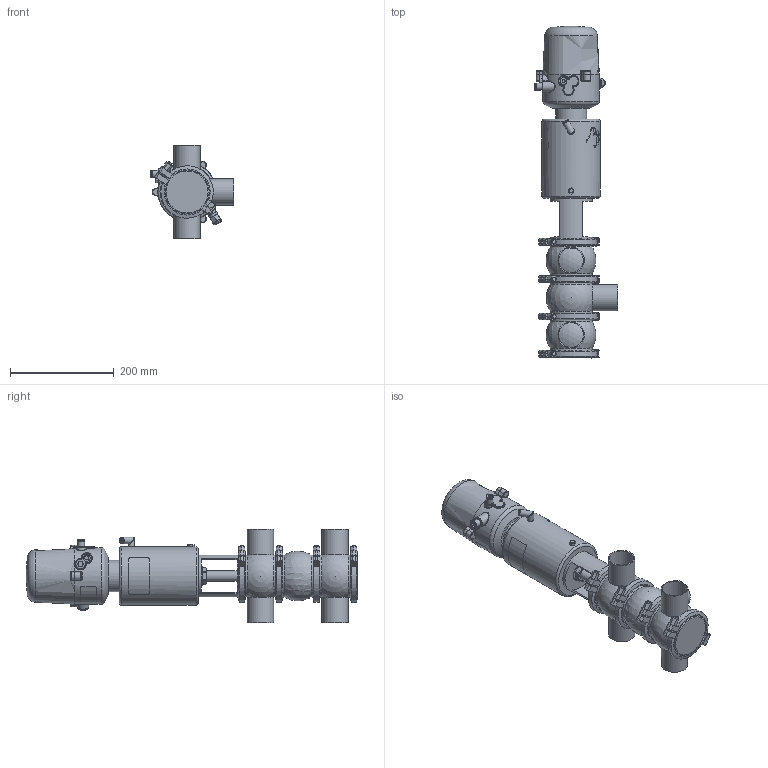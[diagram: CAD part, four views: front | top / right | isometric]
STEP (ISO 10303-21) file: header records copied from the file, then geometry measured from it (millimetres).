
FILE_DESCRIPTION (( 'STEP AP214' ), '1' );
FILE_NAME ('INNOVA L W W OD 2 T2 AS NC & C-TOP S_10.241.16.0064.STEP', '2024-08-06T12:22:22', ( '' ), ( '' ), 'SwSTEP 2.0', 'SolidWorks 2023', '' );
FILE_SCHEMA (( 'AUTOMOTIVE_DESIGN' ));
Length unit declared in the file: millimetre
Products named in the file (9): 10.241.15.0001_DIN 050; 10.240.15.0001_DN 050; INNOVA L W W OD 2 T2 AS NC & C-TOP S_10.241.16.0064; 10.240.15.0010_DN 050; 10.240.15.0014_T2 AS P180; 10.240.15.0017_Estàndard; 10.240.15.0007_OD 2"; 10.426.15.0001_C-TOP S - 1 EV; 10.240.15.0006_OD 2"
Assembly tree (12 placements, depth 2):
  INNOVA L W W OD 2 T2 AS NC & C-TOP S_10.241.16.0064
    10.240.15.0007_OD 2"  x2
    10.240.15.0006_OD 2"
    10.240.15.0010_DN 050
    10.240.15.0014_T2 AS P180
    10.240.15.0017_Estàndard
    10.426.15.0001_C-TOP S - 1 EV
    10.240.15.0001_DN 050  x4
    10.241.15.0001_DIN 050
Bounding box: 161 x 640.27 x 180 mm (x, y, z)
Volume: 4691199.7 mm3; surface area: 477593.8 mm2
Topology: 13 solids, 13 shells, 1315 faces, 3201 edges, 2124 vertices
Faces by surface type: plane 479, cylinder 407, cone 221, bspline 160, torus 36, sphere 12
Full cylindrical faces by diameter (mm): 0.371 x17, 0.512 x16, 0.658 x16, 0.795 x16, 0.94 x15, 1.098 x15, 1.241 x13, 1.382 x13, 1.523 x11, 1.669 x10, 2.201 x1, 4 x2, 5.5 x2, 6 x2, 6.15 x1, 8 x10, 8.5 x1, 10 x1, 10.5 x1, 11 x2, 12.5 x3, 13 x2, 13.5 x2, 16 x1, 17 x3, 20 x3, 20.5 x1, 22 x2, 31 x1, 34.5 x3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
Entity records: 58112 total; most frequent: CARTESIAN_POINT 27766, ORIENTED_EDGE 4516, DIRECTION 3677, EDGE_CURVE 2258, VERTEX_POINT 1609, EDGE_LOOP 1579, AXIS2_PLACEMENT_3D 1510, FACE_OUTER_BOUND 1339
